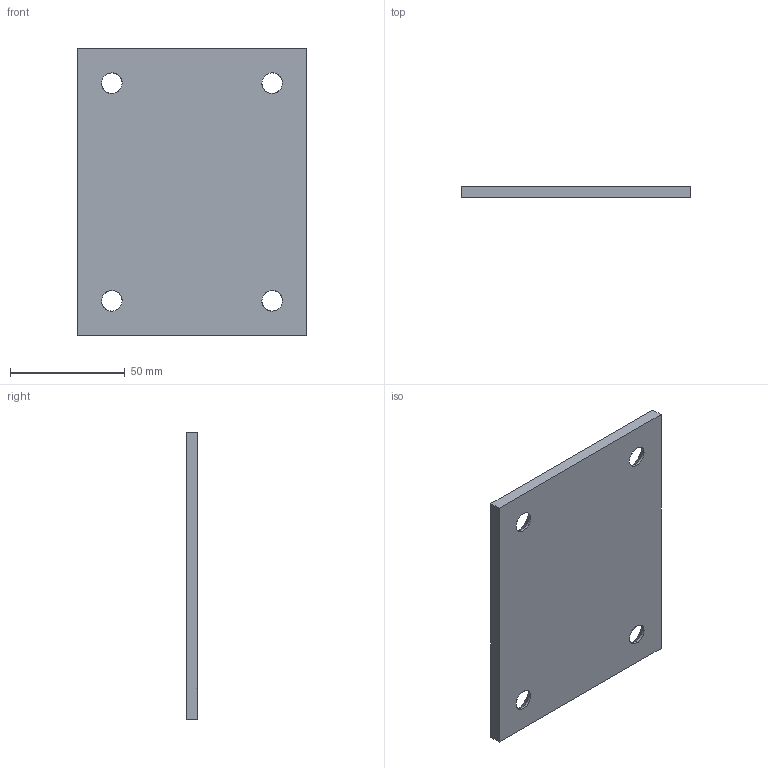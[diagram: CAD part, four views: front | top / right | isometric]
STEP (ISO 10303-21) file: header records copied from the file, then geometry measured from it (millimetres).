
FILE_DESCRIPTION(('CATIA V5 STEP Exchange'),'2;1');
FILE_NAME('C:\Users\Utente\Desktop\3D files A605\A605-100-125.stp','2020-04-13T15:42:10+00:00',('none'),('none'),'CATIA Version 5 Release 20 GA (IN-10)','CATIA V5 STEP AP203','none');
FILE_SCHEMA(('CONFIG_CONTROL_DESIGN'));
Length unit declared in the file: millimetre
Products named in the file (1): Noname
Bounding box: 100 x 5 x 125 mm (x, y, z)
Surface area: 27124.9 mm2 (no closed solid volume)
Topology: 0 solids, 14 shells, 22 faces, 88 edges, 72 vertices
Faces by surface type: cylinder 8, revolution 8, extrusion 6
Entity records: 1146 total; most frequent: CARTESIAN_POINT 405, ORIENTED_EDGE 104, DIRECTION 102, EDGE_CURVE 88, VERTEX_POINT 72, VECTOR 46, AXIS2_PLACEMENT_3D 41, LINE 40
